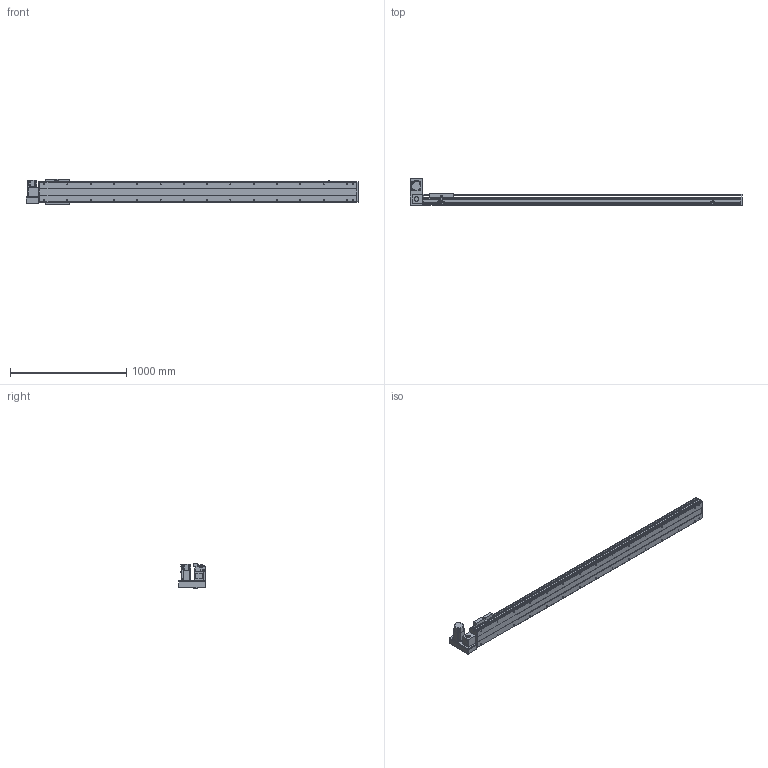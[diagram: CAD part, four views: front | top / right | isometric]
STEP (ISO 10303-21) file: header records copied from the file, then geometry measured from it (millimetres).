
FILE_DESCRIPTION(/* description */ ('STEP AP214'),/* implementation_level */ '2;1');
FILE_NAME(/* name */ 'PBS200-P40-S2350-LU-T75-C1-N(0)',/* time_stamp */ '2022-06-11T09:04:07+02:00',/* author */ ('License CC BY-ND 4.0'),/* organization */ ('CADENAS'),/* preprocessor_version */ 'ST-DEVELOPER v18.102',/* originating_system */ 'PARTsolutions',/* authorisation */ ' ');
FILE_SCHEMA (('AUTOMOTIVE_DESIGN {1 0 10303 214 3 1 1}'));
Length unit declared in the file: millimetre
Products named in the file (7): PBS200-P40-S2350-LU-T75-C1-N(0); PBS200_sensor; PBS200_plant; PBS200_sliser; T75-p1; PBS200T-LU_motors; PBS200-S2350()_body
Assembly tree (8 placements, depth 2):
  PBS200-P40-S2350-LU-T75-C1-N(0)
    PBS200_sensor  x3
    PBS200_plant
    PBS200_sliser
    T75-p1
    PBS200T-LU_motors
    PBS200-S2350()_body
Bounding box: 2850 x 231 x 221 mm (x, y, z)
Volume: 19666858.6 mm3; surface area: 3148900.9 mm2
Topology: 8 solids, 8 shells, 962 faces, 2444 edges, 1590 vertices
Faces by surface type: plane 588, cylinder 312, cone 62
Full cylindrical faces by diameter (mm): 2.459 x6, 3.242 x4, 4.5 x6, 4.917 x4, 5 x6, 6 x7, 6.6 x8, 6.647 x34, 8 x6, 10 x4, 12 x8, 38 x2, 40 x1, 70 x1
Entity records: 25421 total; most frequent: DIRECTION 4495, CARTESIAN_POINT 4318, ORIENTED_EDGE 4066, EDGE_CURVE 2033, AXIS2_PLACEMENT_3D 1591, VERTEX_POINT 1414, LINE 1313, VECTOR 1313
